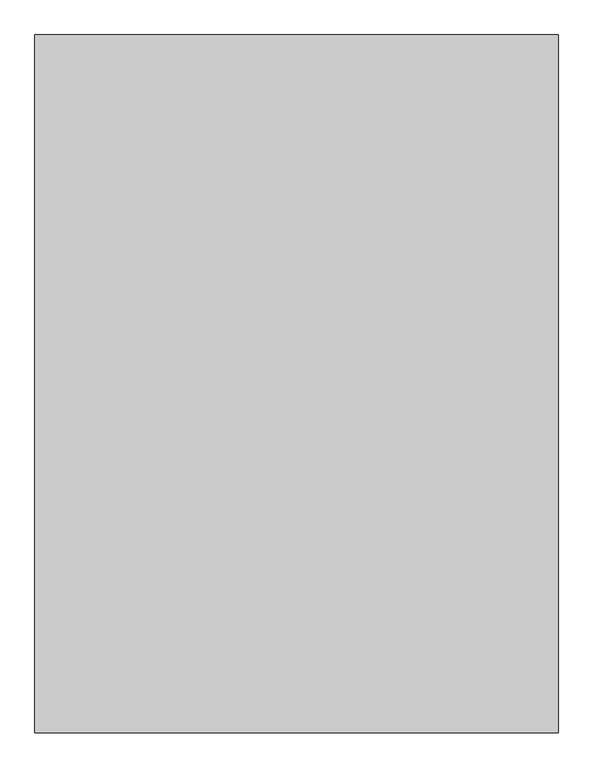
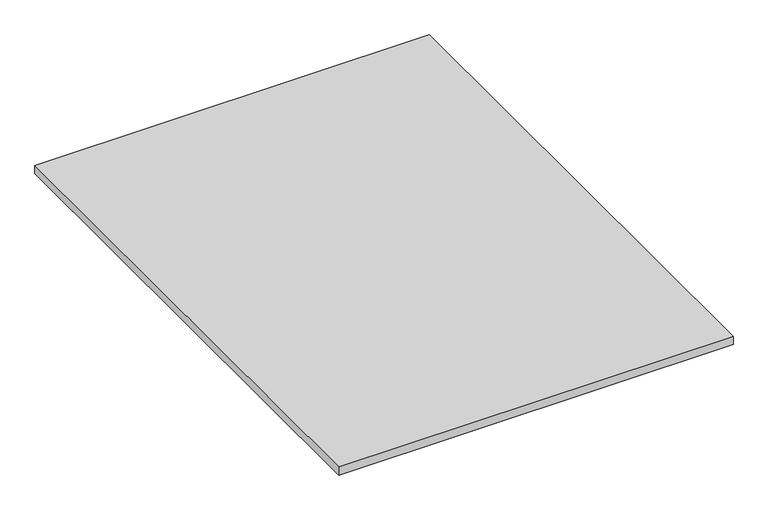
"""IFC4 building model written with IfcOpenShell, lengths in millimetres: proxy geometry, Base de duche19 : Base de duche."""

from ifc_helpers import new_model, si_unit, origin, origin_with_axes, place, context, project, spatial, polyline, outline, extrude, source, transform, mapped, element, save


def generic_models_3be8c8bd(model_context):
    return source(origin(), model_context, "Body", "SweptSolid", [
        extrude(outline(polyline([(23854.882385, 11080.4374423), (23854.882385, 9880.4374423), (22954.882385, 9880.4374423), (22954.882385, 11080.4374423), (23854.882385, 11080.4374423)])), origin_with_axes(), (0.0, 0.0, 1.0), 20.0),
    ])


if __name__ == "__main__":
    model = new_model("IFC4")
    model_context = context("Model", 3, world=origin())
    ifc_project = project(units=[si_unit("LENGTHUNIT", "METRE", prefix="MILLI")], contexts=[model_context])
    site = spatial("IfcSite", under=ifc_project)
    building = spatial("IfcBuilding", under=site)
    placement = place(None, origin())
    generic_models_shape = generic_models_3be8c8bd(model_context)
    element("IfcBuildingElementProxy", 1, Name="Base de duche19 : Base de duche", ObjectType="Base de duche19 : Base de duche", at=placement, inside=building, context=model_context, shape_type="MappedRepresentation", body=[
        mapped(generic_models_shape, transform((0.0, 0.0, 0.0), x_axis=(1.0, 0.0, 0.0), y_axis=(0.0, 1.0, 0.0), z_axis=(0.0, 0.0, 1.0))),
    ])
    save(model, "model.ifc")
